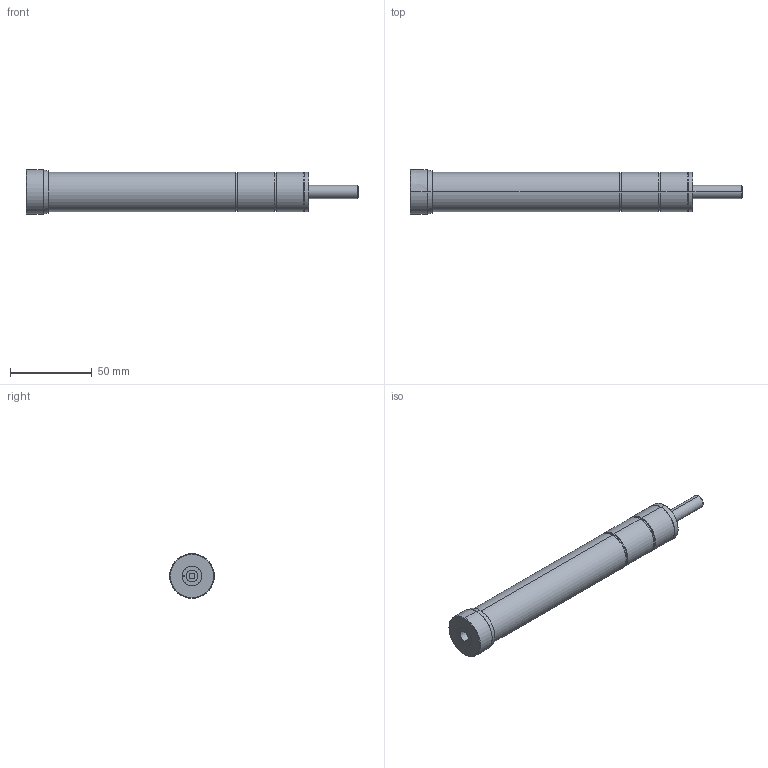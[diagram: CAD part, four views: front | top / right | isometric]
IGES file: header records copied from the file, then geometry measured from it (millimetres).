
Start section: SolidWorks IGES file using analytic representation for surfaces
Global section: file name: D:\IGS跡宒\HR30.IGS,1; native system: 5HSolidWorks 2013; preprocessor: SolidWorks 2013; author: Administrator; date: 160406.153935; units: inch
Bounding box: 203 x 27.3 x 27.3 mm (x, y, z)
Surface area: 18314.9 mm2 (no closed solid volume)
Topology: 0 solids, 0 shells, 53 faces, 1092 edges, 1090 vertices
Faces by surface type: revolution 40, bspline 13
